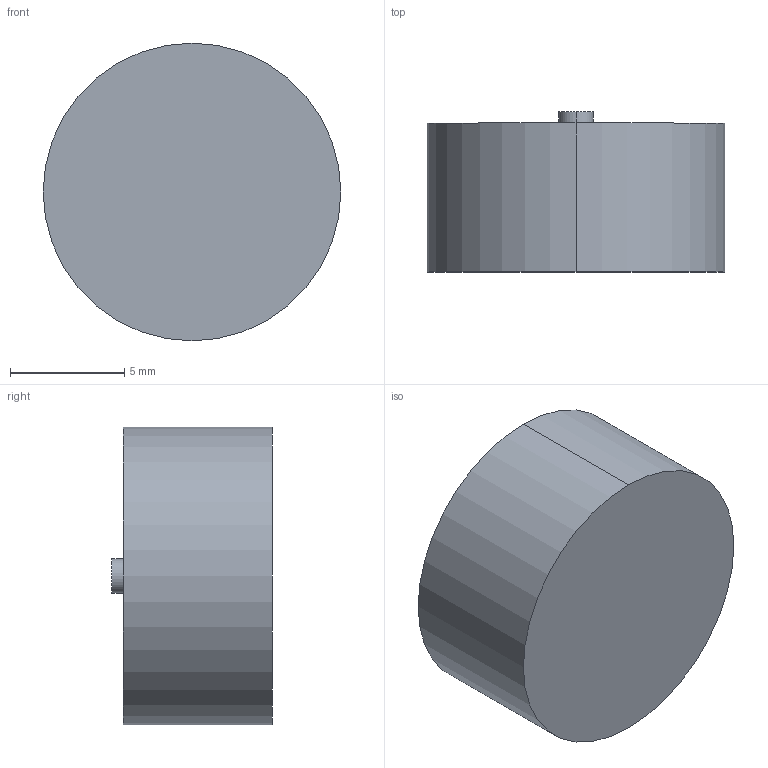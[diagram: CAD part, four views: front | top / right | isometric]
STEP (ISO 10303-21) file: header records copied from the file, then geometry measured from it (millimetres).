
FILE_DESCRIPTION (( 'STEP AP203' ), '1' );
FILE_NAME ('reb5-10kg.STEP', '2018-03-29T23:18:15', ( '' ), ( '' ), 'SwSTEP 2.0', 'SolidWorks 2016', '' );
FILE_SCHEMA (( 'CONFIG_CONTROL_DESIGN' ));
Length unit declared in the file: millimetre
Products named in the file (1): reb5-10kg
Bounding box: 13 x 7 x 13 mm (x, y, z)
Volume: 863.6 mm3; surface area: 533.3 mm2
Topology: 1 solids, 1 shells, 7 faces, 12 edges, 8 vertices
Faces by surface type: cylinder 4, plane 3
Entity records: 251 total; most frequent: DIRECTION 36, CARTESIAN_POINT 28, ORIENTED_EDGE 24, AXIS2_PLACEMENT_3D 16, EDGE_CURVE 12, PERSON_AND_ORGANIZATION 8, VERTEX_POINT 8, EDGE_LOOP 8
